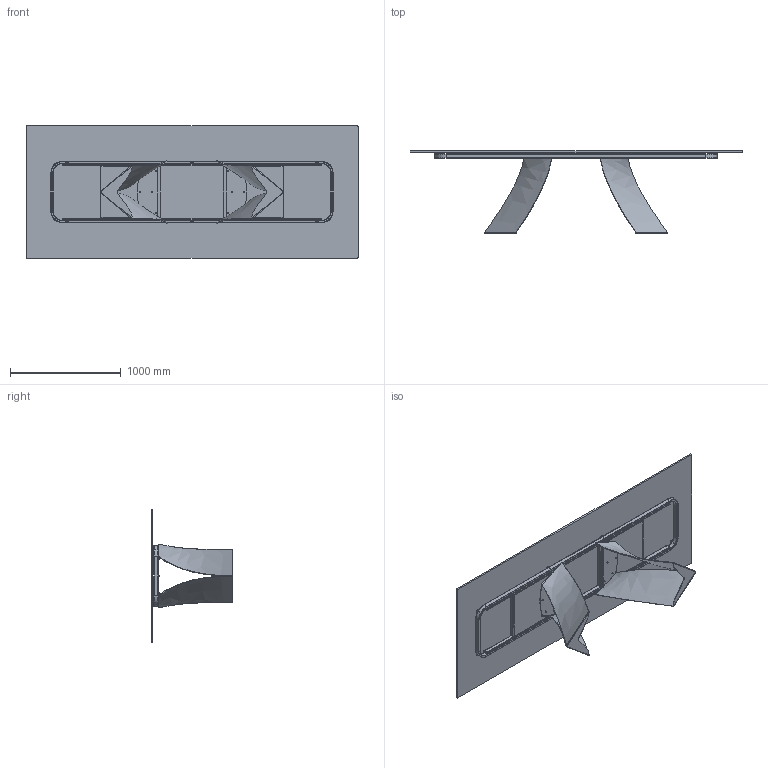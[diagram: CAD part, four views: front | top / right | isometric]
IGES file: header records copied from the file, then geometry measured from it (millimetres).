
Start section: SolidWorks IGES file using analytic representation for surfaces
Global section: file name: Y:\eforma\TECNICO\SOLIDWORKS\E-FORMA\1-TAVOLI\TWIST\02 parts\TW24G.IGS; native system: SolidWorks 2022; preprocessor: SolidWorks 2022; author: eforma.tech; date: 240807.143513; units: millimetre
Bounding box: 3000 x 740.37 x 1200 mm (x, y, z)
Volume: 67584143 mm3; surface area: 13402188 mm2
Topology: 67 solids, 67 shells, 1270 faces, 2950 edges, 1806 vertices
Faces by surface type: revolution 682, plane 522, bspline 66
